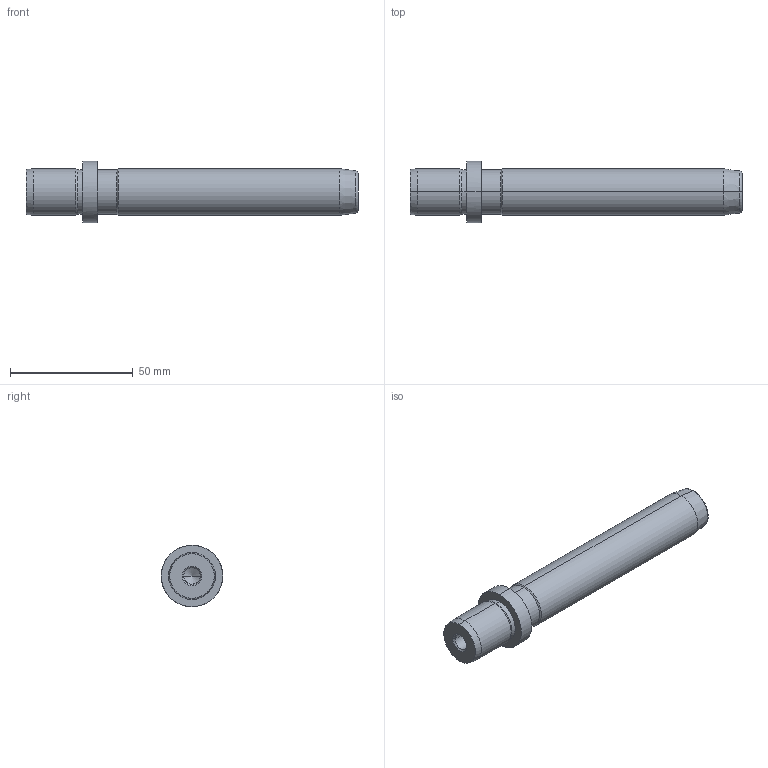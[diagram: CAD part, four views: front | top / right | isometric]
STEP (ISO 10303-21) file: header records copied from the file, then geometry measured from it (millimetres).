
FILE_DESCRIPTION(('CATIA V5 STEP Exchange'),'2;1');
FILE_NAME('C:\Users\Utente\Desktop\IO LAVORO\3D X SITO CF\X SITO\718\718-19x112.stp','2021-01-02T15:44:04+00:00',('none'),('none'),'CATIA Version 5 Release 20 GA (IN-10)','CATIA V5 STEP AP203','none');
FILE_SCHEMA(('CONFIG_CONTROL_DESIGN'));
Length unit declared in the file: millimetre
Products named in the file (1): 718-19x112
Bounding box: 135 x 25 x 25 mm (x, y, z)
Volume: 37217.2 mm3; surface area: 10071.5 mm2
Topology: 1 solids, 1 shells, 36 faces, 100 edges, 66 vertices
Faces by surface type: cone 16, cylinder 14, plane 4, torus 2
Entity records: 1285 total; most frequent: CARTESIAN_POINT 356, ORIENTED_EDGE 192, DIRECTION 157, EDGE_CURVE 96, AXIS2_PLACEMENT_3D 92, VERTEX_POINT 66, CIRCLE 55, EDGE_LOOP 40
